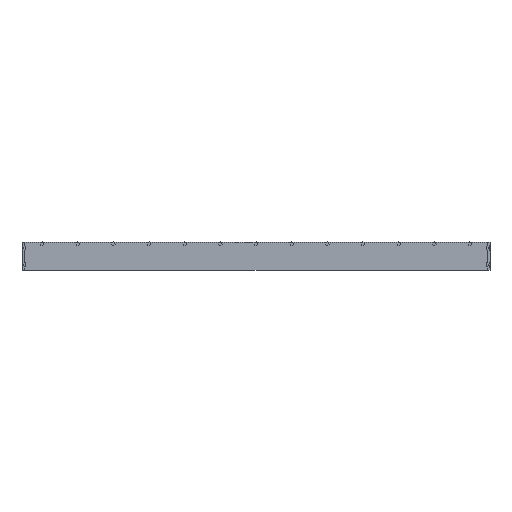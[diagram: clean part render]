
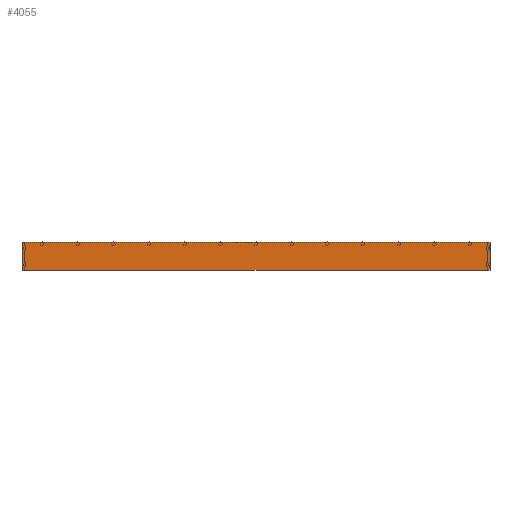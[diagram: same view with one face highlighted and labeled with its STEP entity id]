
A CAD part, front view. The second image highlights one B-rep face of the part: STEP entity #4055.
In plain terms, the highlighted planar face has unit normal (0, -1, 0) as drawn and (0, 0, 1) by its records, which use the part's own axes.
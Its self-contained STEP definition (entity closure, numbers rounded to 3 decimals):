
#436=PLANE('',#4433);
#540=LINE('',#5573,#1048);
#543=LINE('',#5579,#1051);
#544=LINE('',#5581,#1052);
#545=LINE('',#5583,#1053);
#1048=VECTOR('',#4801,1000.);
#1051=VECTOR('',#4806,1000.);
#1052=VECTOR('',#4807,1000.);
#1053=VECTOR('',#4808,1000.);
#1739=ORIENTED_EDGE('',*,*,#2709,.T.);
#1740=ORIENTED_EDGE('',*,*,#2710,.F.);
#1741=ORIENTED_EDGE('',*,*,#2711,.F.);
#1742=ORIENTED_EDGE('',*,*,#2706,.T.);
#2706=EDGE_CURVE('',#3215,#3214,#540,.T.);
#2709=EDGE_CURVE('',#3214,#3217,#543,.T.);
#2710=EDGE_CURVE('',#3218,#3217,#544,.T.);
#2711=EDGE_CURVE('',#3215,#3218,#545,.T.);
#3214=VERTEX_POINT('',#5572);
#3215=VERTEX_POINT('',#5574);
#3217=VERTEX_POINT('',#5580);
#3218=VERTEX_POINT('',#5582);
#3518=EDGE_LOOP('',(#1739,#1740,#1741,#1742));
#3776=FACE_BOUND('',#3518,.T.);
#4055=ADVANCED_FACE('',(#3776),#436,.F.);
#4433=AXIS2_PLACEMENT_3D('',#5578,#4804,#4805);
#4801=DIRECTION('',(-1.,0.,0.));
#4804=DIRECTION('',(0.,0.,-1.));
#4805=DIRECTION('',(-1.,0.,0.));
#4806=DIRECTION('',(0.,-1.,0.));
#4807=DIRECTION('',(-1.,0.,0.));
#4808=DIRECTION('',(0.,-1.,0.));
#5572=CARTESIAN_POINT('',(-250.,0.,500.));
#5573=CARTESIAN_POINT('',(250.,0.,500.));
#5574=CARTESIAN_POINT('',(250.,0.,500.));
#5578=CARTESIAN_POINT('',(250.,0.,500.));
#5579=CARTESIAN_POINT('',(-250.,0.,500.));
#5580=CARTESIAN_POINT('',(-250.,-30.,500.));
#5581=CARTESIAN_POINT('',(250.,-30.,500.));
#5582=CARTESIAN_POINT('',(250.,-30.,500.));
#5583=CARTESIAN_POINT('',(250.,0.,500.));
